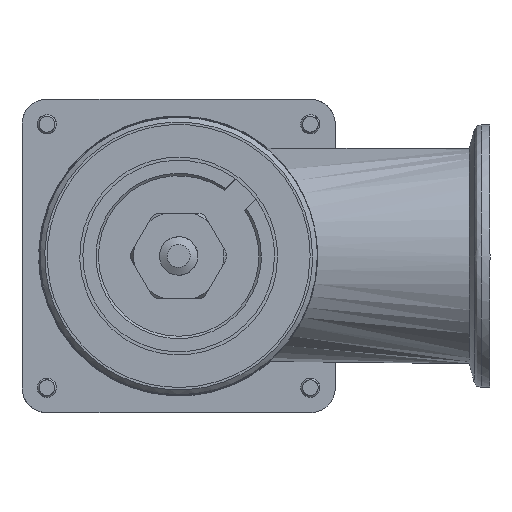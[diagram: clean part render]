
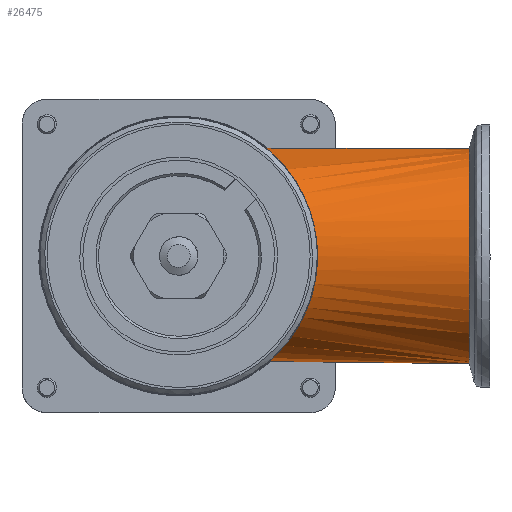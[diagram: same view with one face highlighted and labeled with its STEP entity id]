
A CAD part, front view. The second image highlights one B-rep face of the part: STEP entity #26475.
In plain terms, the highlighted free-form (B-spline) face has degree [2, 1] with [7, 2] control points.
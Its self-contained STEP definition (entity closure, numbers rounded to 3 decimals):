
#26368=CARTESIAN_POINT('V3',(4.326,22.5,
   0.0));
#26369=VERTEX_POINT('V3',#26368);
#26375=CARTESIAN_POINT('E5',(4.326,22.5,
   0.0));
#26376=CARTESIAN_POINT('E5',(4.326,22.5,
   38.971));
#26377=CARTESIAN_POINT('E5',(4.326,-11.25,
   19.486));
#26378=CARTESIAN_POINT('E5',(4.326,-45.,
   0.));
#26379=CARTESIAN_POINT('E5',(4.326,-11.25,
   -19.486));
#26380=CARTESIAN_POINT('E5',(4.326,22.5,
   -38.971));
#26381=CARTESIAN_POINT('E5',(4.326,22.5,
   0.0));
#26389=(BOUNDED_CURVE()B_SPLINE_CURVE(2,(#26375,#26376,#26377,
   #26378,#26379,#26380,#26381),.CIRCULAR_ARC.,.T.,.U.)
   B_SPLINE_CURVE_WITH_KNOTS((3,2,2,3),(0.0,1.785,
   3.569,5.354),.UNSPECIFIED.)CURVE()
   GEOMETRIC_REPRESENTATION_ITEM()RATIONAL_B_SPLINE_CURVE((1.0,
   0.5,1.0,0.5,1.0,0.5,1.0)
   )REPRESENTATION_ITEM('E5'));
#26390=EDGE_CURVE('E5',#26369,#26369,#26389,.T.);
#26397=CARTESIAN_POINT('F7',(4.326,22.5,
   0.0));
#26398=CARTESIAN_POINT('F7',(4.326,22.5,
   38.971));
#26399=CARTESIAN_POINT('F7',(4.326,-11.25,
   19.486));
#26400=CARTESIAN_POINT('F7',(4.326,-45.,
   0.));
#26401=CARTESIAN_POINT('F7',(4.326,-11.25,
   -19.486));
#26402=CARTESIAN_POINT('F7',(4.326,22.5,
   -38.971));
#26403=CARTESIAN_POINT('F7',(4.326,22.5,
   0.0));
#26404=CARTESIAN_POINT('F7',(48.,22.5,
   0.0));
#26405=CARTESIAN_POINT('F7',(48.,22.5,
   38.971));
#26406=CARTESIAN_POINT('F7',(48.,-11.25,
   19.486));
#26407=CARTESIAN_POINT('F7',(48.,-45.,
   0.));
#26408=CARTESIAN_POINT('F7',(48.,-11.25,
   -19.486));
#26409=CARTESIAN_POINT('F7',(48.,22.5,
   -38.971));
#26410=CARTESIAN_POINT('F7',(48.,22.5,
   0.0));
#26418=(BOUNDED_SURFACE()B_SPLINE_SURFACE(2,1,((#26397,#26404),(
   #26398,#26405),(#26399,#26406),(#26400,#26407),(#26401,
   #26408),(#26402,#26409),(#26403,#26410)),.CYLINDRICAL_SURF.,
   .T.,.F.,.U.)B_SPLINE_SURFACE_WITH_KNOTS((3,2,2,3),(2,2),(0.0,
   1.785,3.569,5.354),(0.0,1.0),
   .UNSPECIFIED.)GEOMETRIC_REPRESENTATION_ITEM()
   RATIONAL_B_SPLINE_SURFACE(((1.0,1.0),(0.5,
   0.5),(1.0,1.0),(0.5,
   0.5),(1.0,1.0),(0.5,
   0.5),(1.0,1.0)))REPRESENTATION_ITEM('F7')SURFACE()
   );
#26419=CARTESIAN_POINT('V8',(36.,22.5,
   0.0));
#26420=VERTEX_POINT('V8',#26419);
#26421=CARTESIAN_POINT('E12',(36.,22.5,
   0.0));
#26422=CARTESIAN_POINT('E12',(36.,22.5,
   -1.358));
#26423=CARTESIAN_POINT('E12',(36.096,22.377,
   -2.705));
#26424=CARTESIAN_POINT('E12',(36.726,21.559,
   -7.203));
#26425=CARTESIAN_POINT('E12',(37.643,20.362,
   -9.921));
#26426=CARTESIAN_POINT('E12',(39.999,17.088,
   -15.045));
#26427=CARTESIAN_POINT('E12',(41.626,14.696,
   -17.298));
#26428=CARTESIAN_POINT('E12',(44.454,9.594,
   -20.584));
#26429=CARTESIAN_POINT('E12',(45.771,6.657,
   -21.722));
#26430=CARTESIAN_POINT('E12',(46.507,2.793,
   -22.339));
#26431=CARTESIAN_POINT('E12',(46.608,2.027,
   -22.422));
#26432=CARTESIAN_POINT('E12',(46.713,0.494,
   -22.507));
#26433=CARTESIAN_POINT('E12',(46.718,-0.262,
   -22.511));
#26434=CARTESIAN_POINT('E12',(46.595,-2.461,
   -22.411));
#26435=CARTESIAN_POINT('E12',(46.347,-3.859,
   -22.21));
#26436=CARTESIAN_POINT('E12',(45.608,-6.553,
   -21.569));
#26437=CARTESIAN_POINT('E12',(45.124,-7.843,
   -21.132));
#26438=CARTESIAN_POINT('E12',(43.257,-12.045,
   -19.28));
#26439=CARTESIAN_POINT('E12',(41.451,-14.925,
   -17.238));
#26440=CARTESIAN_POINT('E12',(38.449,-19.296,
   -11.99));
#26441=CARTESIAN_POINT('E12',(37.103,-21.066,
   -8.829));
#26442=CARTESIAN_POINT('E12',(36.054,-22.432,
   -2.826));
#26443=CARTESIAN_POINT('E12',(35.919,-22.604,
   -0.591));
#26444=CARTESIAN_POINT('E12',(36.146,-22.312,
   3.387));
#26445=CARTESIAN_POINT('E12',(36.399,-21.985,
   5.078));
#26446=CARTESIAN_POINT('E12',(37.458,-20.595,
   9.536));
#26447=CARTESIAN_POINT('E12',(38.482,-19.227,
   11.951));
#26448=CARTESIAN_POINT('E12',(41.265,-15.223,
   17.038));
#26449=CARTESIAN_POINT('E12',(43.22,-12.152,
   19.248));
#26450=CARTESIAN_POINT('E12',(45.614,-6.723,
   21.614));
#26451=CARTESIAN_POINT('E12',(46.48,-4.084,
   22.317));
#26452=CARTESIAN_POINT('E12',(46.759,0.274,
   22.545));
#26453=CARTESIAN_POINT('E12',(46.678,1.703,
   22.481));
#26454=CARTESIAN_POINT('E12',(45.974,5.887,
   21.895));
#26455=CARTESIAN_POINT('E12',(44.933,8.481,
   21.007));
#26456=CARTESIAN_POINT('E12',(42.381,13.502,
   18.26));
#26457=CARTESIAN_POINT('E12',(40.673,16.101,
   16.113));
#26458=CARTESIAN_POINT('E12',(38.111,19.735,
   11.121));
#26459=CARTESIAN_POINT('E12',(37.094,21.077,
   8.492));
#26460=CARTESIAN_POINT('E12',(36.175,22.276,
   3.648));
#26461=CARTESIAN_POINT('E12',(36.,22.5,
   1.836));
#26462=CARTESIAN_POINT('E12',(36.,22.5,
   0.0));
#26463=B_SPLINE_CURVE_WITH_KNOTS('E12',3,(#26421,#26422,#26423,
   #26424,#26425,#26426,#26427,#26428,#26429,#26430,#26431,#26432,
   #26433,#26434,#26435,#26436,#26437,#26438,#26439,#26440,#26441,
   #26442,#26443,#26444,#26445,#26446,#26447,#26448,#26449,#26450,
   #26451,#26452,#26453,#26454,#26455,#26456,#26457,#26458,#26459,
   #26460,#26461,#26462),.UNSPECIFIED.,.T.,.U.,(4,2,2,2,2,2,2,2,2,2,
   2,2,2,2,2,2,2,2,2,2,4),(0.0,0.023,0.08,
   0.155,0.232,0.251,
   0.269,0.304,0.338,
   0.421,0.492,0.531,
   0.562,0.616,0.701,
   0.762,0.792,0.851,
   0.92,0.971,1.0),.UNSPECIFIED.);
#26464=EDGE_CURVE('E12',#26420,#26420,#26463,.T.);
#26465=ORIENTED_EDGE('E12',*,*,#26464,.F.);
#26466=CARTESIAN_POINT('E13',(36.,22.5,
   0.0));
#26467=CARTESIAN_POINT('E13',(4.326,22.5,
   0.0));
#26468=B_SPLINE_CURVE_WITH_KNOTS('E13',1,(#26466,#26467),
   .POLYLINE_FORM.,.F.,.U.,(2,2),(0.275,1.0),
   .UNSPECIFIED.);
#26469=EDGE_CURVE('E13',#26420,#26369,#26468,.T.);
#26470=ORIENTED_EDGE('E13',*,*,#26469,.T.);
#26471=ORIENTED_EDGE('E5',*,*,#26390,.F.);
#26472=ORIENTED_EDGE('E13',*,*,#26469,.F.);
#26473=EDGE_LOOP('F7',(#26465,#26470,#26471,#26472));
#26474=FACE_OUTER_BOUND('F7',#26473,.F.);
#26475=ADVANCED_FACE('F7',(#26474),#26418,.T.);
